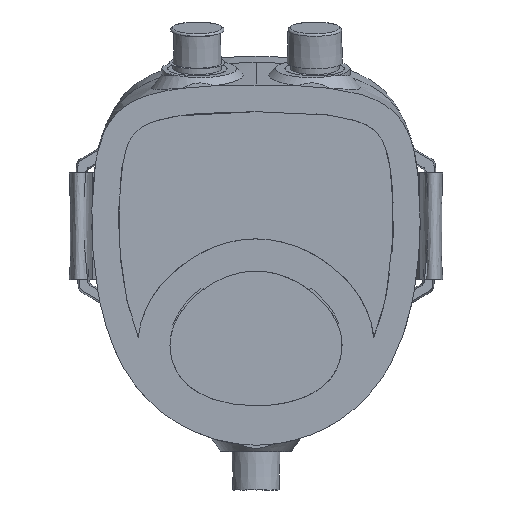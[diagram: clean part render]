
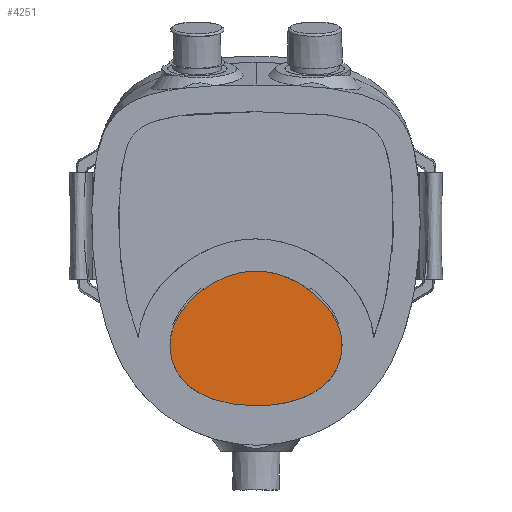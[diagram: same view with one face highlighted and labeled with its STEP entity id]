
A CAD part, front view. The second image highlights one B-rep face of the part: STEP entity #4251.
In plain terms, the highlighted planar face has unit normal (0, -1, 0).
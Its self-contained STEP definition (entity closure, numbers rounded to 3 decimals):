
#778=PLANE('',#4580);
#960=FACE_OUTER_BOUND('',#1212,.T.);
#1212=EDGE_LOOP('',(#3445,#3446,#3447,#3448,#3449,#3450,#3451,#3452,#3453));
#1611=B_SPLINE_CURVE_WITH_KNOTS('',3,(#11547,#11548,#11549,#11550,#11551,
#11552,#11553),.UNSPECIFIED.,.F.,.F.,(4,3,4),(-2.948,-2.,-1.705),
 .UNSPECIFIED.);
#1613=B_SPLINE_CURVE_WITH_KNOTS('',3,(#11574,#11575,#11576,#11577),
 .UNSPECIFIED.,.F.,.F.,(4,4),(-1.705,-1.24),
 .UNSPECIFIED.);
#1615=B_SPLINE_CURVE_WITH_KNOTS('',3,(#11599,#11600,#11601,#11602,#11603,
#11604,#11605),.UNSPECIFIED.,.F.,.F.,(4,3,4),(-1.24,-1.,-0.285),
 .UNSPECIFIED.);
#1617=B_SPLINE_CURVE_WITH_KNOTS('',3,(#11624,#11625,#11626,#11627),
 .UNSPECIFIED.,.F.,.F.,(4,4),(-0.285,0.),.UNSPECIFIED.);
#1619=B_SPLINE_CURVE_WITH_KNOTS('',3,(#11643,#11644,#11645,#11646),
 .UNSPECIFIED.,.F.,.F.,(4,4),(-8.,-7.715),.UNSPECIFIED.);
#1621=B_SPLINE_CURVE_WITH_KNOTS('',3,(#11668,#11669,#11670,#11671,#11672,
#11673,#11674),.UNSPECIFIED.,.F.,.F.,(4,3,4),(-7.715,-7.,-6.76),
 .UNSPECIFIED.);
#1623=B_SPLINE_CURVE_WITH_KNOTS('',3,(#11693,#11694,#11695,#11696),
 .UNSPECIFIED.,.F.,.F.,(4,4),(-6.76,-6.295),
 .UNSPECIFIED.);
#1625=B_SPLINE_CURVE_WITH_KNOTS('',3,(#11718,#11719,#11720,#11721,#11722,
#11723,#11724),.UNSPECIFIED.,.F.,.F.,(4,3,4),(-6.295,-6.,-5.053),
 .UNSPECIFIED.);
#1627=B_SPLINE_CURVE_WITH_KNOTS('',3,(#11760,#11761,#11762,#11763,#11764,
#11765,#11766,#11767,#11768,#11769,#11770,#11771,#11772),.UNSPECIFIED.,
 .F.,.F.,(4,3,3,3,4),(-5.053,-5.,-4.,-3.,-2.948),
 .UNSPECIFIED.);
#1910=VERTEX_POINT('',#11545);
#1911=VERTEX_POINT('',#11546);
#1914=VERTEX_POINT('',#11573);
#1916=VERTEX_POINT('',#11598);
#1918=VERTEX_POINT('',#11623);
#1920=VERTEX_POINT('',#11642);
#1922=VERTEX_POINT('',#11667);
#1924=VERTEX_POINT('',#11692);
#1926=VERTEX_POINT('',#11717);
#2438=EDGE_CURVE('',#1910,#1911,#1611,.T.);
#2442=EDGE_CURVE('',#1911,#1914,#1613,.T.);
#2445=EDGE_CURVE('',#1914,#1916,#1615,.T.);
#2448=EDGE_CURVE('',#1916,#1918,#1617,.T.);
#2451=EDGE_CURVE('',#1918,#1920,#1619,.T.);
#2454=EDGE_CURVE('',#1920,#1922,#1621,.T.);
#2457=EDGE_CURVE('',#1922,#1924,#1623,.T.);
#2460=EDGE_CURVE('',#1924,#1926,#1625,.T.);
#2463=EDGE_CURVE('',#1926,#1910,#1627,.T.);
#3445=ORIENTED_EDGE('',*,*,#2463,.T.);
#3446=ORIENTED_EDGE('',*,*,#2438,.T.);
#3447=ORIENTED_EDGE('',*,*,#2442,.T.);
#3448=ORIENTED_EDGE('',*,*,#2445,.T.);
#3449=ORIENTED_EDGE('',*,*,#2448,.T.);
#3450=ORIENTED_EDGE('',*,*,#2451,.T.);
#3451=ORIENTED_EDGE('',*,*,#2454,.T.);
#3452=ORIENTED_EDGE('',*,*,#2457,.T.);
#3453=ORIENTED_EDGE('',*,*,#2460,.T.);
#4251=ADVANCED_FACE('',(#960),#778,.F.);
#4580=AXIS2_PLACEMENT_3D('',#11787,#4953,#4954);
#4953=DIRECTION('center_axis',(0.,1.,0.));
#4954=DIRECTION('ref_axis',(-1.,0.,0.));
#11545=CARTESIAN_POINT('',(-30.591,-180.,148.004));
#11546=CARTESIAN_POINT('',(-45.43,-180.,115.086));
#11547=CARTESIAN_POINT('Ctrl Pts',(-30.591,-180.,148.004));
#11548=CARTESIAN_POINT('Ctrl Pts',(-38.333,-180.,141.57));
#11549=CARTESIAN_POINT('Ctrl Pts',(-44.06,-180.,133.102));
#11550=CARTESIAN_POINT('Ctrl Pts',(-45.423,-180.,123.852));
#11551=CARTESIAN_POINT('Ctrl Pts',(-45.848,-180.,120.973));
#11552=CARTESIAN_POINT('Ctrl Pts',(-45.851,-180.,118.012));
#11553=CARTESIAN_POINT('Ctrl Pts',(-45.43,-180.,115.086));
#11573=CARTESIAN_POINT('',(-40.275,-180.,101.975));
#11574=CARTESIAN_POINT('Ctrl Pts',(-45.43,-180.,115.086));
#11575=CARTESIAN_POINT('Ctrl Pts',(-44.767,-180.,110.475));
#11576=CARTESIAN_POINT('Ctrl Pts',(-43.052,-180.,105.953));
#11577=CARTESIAN_POINT('Ctrl Pts',(-40.275,-180.,101.975));
#11598=CARTESIAN_POINT('',(-11.319,-180.,86.512));
#11599=CARTESIAN_POINT('Ctrl Pts',(-40.275,-180.,101.975));
#11600=CARTESIAN_POINT('Ctrl Pts',(-38.841,-180.,99.919));
#11601=CARTESIAN_POINT('Ctrl Pts',(-37.123,-180.,98.008));
#11602=CARTESIAN_POINT('Ctrl Pts',(-35.12,-180.,96.304));
#11603=CARTESIAN_POINT('Ctrl Pts',(-29.156,-180.,91.229));
#11604=CARTESIAN_POINT('Ctrl Pts',(-20.61,-180.,87.956));
#11605=CARTESIAN_POINT('Ctrl Pts',(-11.319,-180.,86.512));
#11623=CARTESIAN_POINT('',(0.017,-180.,85.651));
#11624=CARTESIAN_POINT('Ctrl Pts',(-11.319,-180.,86.512));
#11625=CARTESIAN_POINT('Ctrl Pts',(-7.618,-180.,85.936));
#11626=CARTESIAN_POINT('Ctrl Pts',(-3.8,-180.,85.65));
#11627=CARTESIAN_POINT('Ctrl Pts',(0.017,-180.,85.651));
#11642=CARTESIAN_POINT('',(11.361,-180.,86.521));
#11643=CARTESIAN_POINT('Ctrl Pts',(0.017,-180.,85.651));
#11644=CARTESIAN_POINT('Ctrl Pts',(3.838,-180.,85.653));
#11645=CARTESIAN_POINT('Ctrl Pts',(7.658,-180.,85.942));
#11646=CARTESIAN_POINT('Ctrl Pts',(11.361,-180.,86.521));
#11667=CARTESIAN_POINT('',(40.283,-180.,101.991));
#11668=CARTESIAN_POINT('Ctrl Pts',(11.361,-180.,86.521));
#11669=CARTESIAN_POINT('Ctrl Pts',(20.644,-180.,87.973));
#11670=CARTESIAN_POINT('Ctrl Pts',(29.181,-180.,91.251));
#11671=CARTESIAN_POINT('Ctrl Pts',(35.139,-180.,96.329));
#11672=CARTESIAN_POINT('Ctrl Pts',(37.137,-180.,98.031));
#11673=CARTESIAN_POINT('Ctrl Pts',(38.851,-180.,99.939));
#11674=CARTESIAN_POINT('Ctrl Pts',(40.283,-180.,101.991));
#11692=CARTESIAN_POINT('',(45.444,-180.,115.132));
#11693=CARTESIAN_POINT('Ctrl Pts',(40.283,-180.,101.991));
#11694=CARTESIAN_POINT('Ctrl Pts',(43.066,-180.,105.979));
#11695=CARTESIAN_POINT('Ctrl Pts',(44.784,-180.,110.512));
#11696=CARTESIAN_POINT('Ctrl Pts',(45.444,-180.,115.132));
#11717=CARTESIAN_POINT('',(30.58,-180.,148.003));
#11718=CARTESIAN_POINT('Ctrl Pts',(45.444,-180.,115.132));
#11719=CARTESIAN_POINT('Ctrl Pts',(45.861,-180.,118.054));
#11720=CARTESIAN_POINT('Ctrl Pts',(45.855,-180.,121.01));
#11721=CARTESIAN_POINT('Ctrl Pts',(45.429,-180.,123.884));
#11722=CARTESIAN_POINT('Ctrl Pts',(44.057,-180.,133.123));
#11723=CARTESIAN_POINT('Ctrl Pts',(38.318,-180.,141.577));
#11724=CARTESIAN_POINT('Ctrl Pts',(30.58,-180.,148.003));
#11760=CARTESIAN_POINT('Ctrl Pts',(30.58,-180.,148.003));
#11761=CARTESIAN_POINT('Ctrl Pts',(30.145,-180.,148.364));
#11762=CARTESIAN_POINT('Ctrl Pts',(29.704,-180.,148.719));
#11763=CARTESIAN_POINT('Ctrl Pts',(29.258,-180.,149.067));
#11764=CARTESIAN_POINT('Ctrl Pts',(20.857,-180.,155.608));
#11765=CARTESIAN_POINT('Ctrl Pts',(10.407,-180.,159.787));
#11766=CARTESIAN_POINT('Ctrl Pts',(-0.013,-180.,159.785));
#11767=CARTESIAN_POINT('Ctrl Pts',(-10.433,-180.,159.782));
#11768=CARTESIAN_POINT('Ctrl Pts',(-20.896,-180.,155.599));
#11769=CARTESIAN_POINT('Ctrl Pts',(-29.291,-180.,149.052));
#11770=CARTESIAN_POINT('Ctrl Pts',(-29.73,-180.,148.709));
#11771=CARTESIAN_POINT('Ctrl Pts',(-30.164,-180.,148.36));
#11772=CARTESIAN_POINT('Ctrl Pts',(-30.591,-180.,148.004));
#11787=CARTESIAN_POINT('Origin',(0.005,-180.,122.718));
